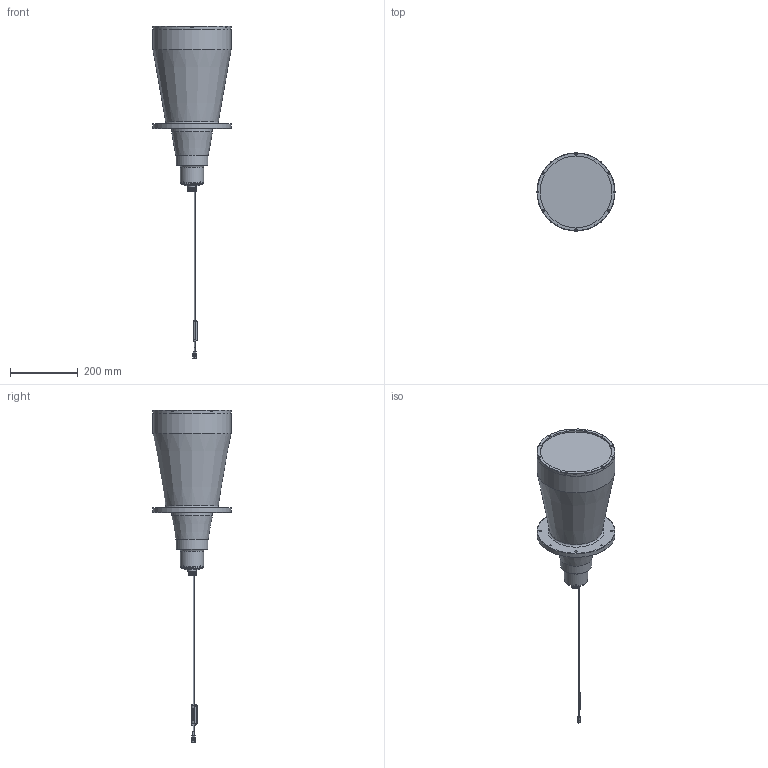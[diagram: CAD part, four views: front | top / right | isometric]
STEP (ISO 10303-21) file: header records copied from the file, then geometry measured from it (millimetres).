
FILE_DESCRIPTION (( 'STEP AP203' ), '1' );
FILE_NAME ('MTI-195-CG-070_A22108A0000401A-001.STEP', '2015-11-10T07:05:18', ( '' ), ( '' ), 'SwSTEP 2.0', 'SolidWorks 2014', '' );
FILE_SCHEMA (( 'CONFIG_CONTROL_DESIGN' ));
Length unit declared in the file: millimetre
Products named in the file (1): MTI-195-CG-070_A22108A0000401A-001
Bounding box: 230 x 230 x 977.27 mm (x, y, z)
Volume: 10841709.5 mm3; surface area: 360482.5 mm2
Topology: 3 solids, 8 shells, 591 faces, 1608 edges, 1089 vertices
Faces by surface type: plane 343, cylinder 182, cone 43, torus 23
Full cylindrical faces by diameter (mm): 1.5 x6, 1.6 x2, 2 x8, 2.4 x3, 2.5 x7, 3.1 x1, 3.2 x4, 3.5 x1, 3.8 x7, 4 x1, 4.4 x3, 5 x4, 5.5 x10, 7 x4, 8 x8, 24 x1, 44 x1, 45 x1, 64 x1, 68 x1, 93 x1, 120 x1, 211 x1, 229.8 x1, 230 x2
Entity records: 21175 total; most frequent: CARTESIAN_POINT 6947, DIRECTION 2897, ORIENTED_EDGE 2792, EDGE_CURVE 1396, AXIS2_PLACEMENT_3D 1084, VERTEX_POINT 1007, EDGE_LOOP 825, VECTOR 729
